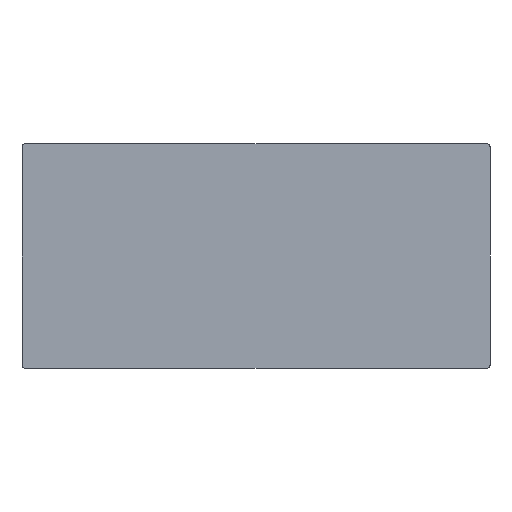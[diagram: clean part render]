
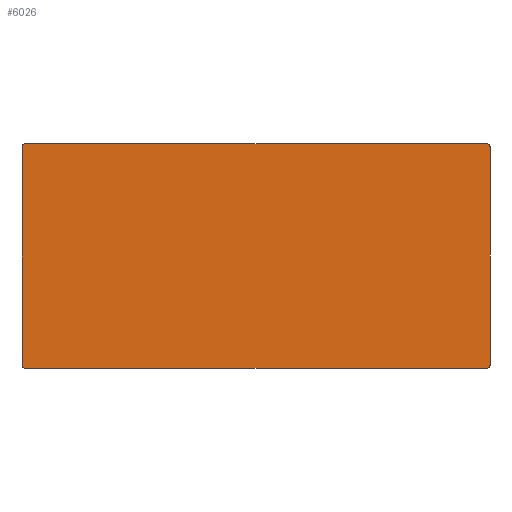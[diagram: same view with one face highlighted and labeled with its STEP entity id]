
A CAD part, front view. The second image highlights one B-rep face of the part: STEP entity #6026.
In plain terms, the highlighted planar face has unit normal (0, -1, 0).
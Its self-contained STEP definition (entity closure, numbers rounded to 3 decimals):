
#251=PLANE('',#6502);
#508=FACE_OUTER_BOUND('',#880,.T.);
#880=EDGE_LOOP('',(#4378,#4379,#4380,#4381,#4382,#4383,#4384,#4385));
#1365=LINE('',#9029,#1922);
#1371=LINE('',#9049,#1928);
#1374=LINE('',#9057,#1931);
#1376=LINE('',#9063,#1933);
#1922=VECTOR('',#7379,10.);
#1928=VECTOR('',#7399,10.);
#1931=VECTOR('',#7408,10.);
#1933=VECTOR('',#7416,10.);
#2375=CIRCLE('',#6487,2.);
#2379=CIRCLE('',#6494,2.);
#2380=CIRCLE('',#6497,2.);
#2381=CIRCLE('',#6500,2.);
#2674=VERTEX_POINT('',#9019);
#2675=VERTEX_POINT('',#9021);
#2677=VERTEX_POINT('',#9027);
#2683=VERTEX_POINT('',#9043);
#2684=VERTEX_POINT('',#9047);
#2685=VERTEX_POINT('',#9051);
#2686=VERTEX_POINT('',#9055);
#2687=VERTEX_POINT('',#9059);
#3284=EDGE_CURVE('',#2674,#2675,#2375,.T.);
#3288=EDGE_CURVE('',#2674,#2677,#1365,.T.);
#3296=EDGE_CURVE('',#2683,#2677,#2379,.T.);
#3298=EDGE_CURVE('',#2683,#2684,#1371,.T.);
#3300=EDGE_CURVE('',#2685,#2684,#2380,.T.);
#3302=EDGE_CURVE('',#2685,#2686,#1374,.T.);
#3304=EDGE_CURVE('',#2687,#2686,#2381,.T.);
#3305=EDGE_CURVE('',#2687,#2675,#1376,.T.);
#4378=ORIENTED_EDGE('',*,*,#3284,.F.);
#4379=ORIENTED_EDGE('',*,*,#3288,.T.);
#4380=ORIENTED_EDGE('',*,*,#3296,.F.);
#4381=ORIENTED_EDGE('',*,*,#3298,.T.);
#4382=ORIENTED_EDGE('',*,*,#3300,.F.);
#4383=ORIENTED_EDGE('',*,*,#3302,.T.);
#4384=ORIENTED_EDGE('',*,*,#3304,.F.);
#4385=ORIENTED_EDGE('',*,*,#3305,.T.);
#6026=ADVANCED_FACE('',(#508),#251,.F.);
#6487=AXIS2_PLACEMENT_3D('',#9022,#7372,#7373);
#6494=AXIS2_PLACEMENT_3D('',#9045,#7394,#7395);
#6497=AXIS2_PLACEMENT_3D('',#9053,#7403,#7404);
#6500=AXIS2_PLACEMENT_3D('',#9061,#7412,#7413);
#6502=AXIS2_PLACEMENT_3D('',#9064,#7417,#7418);
#7372=DIRECTION('center_axis',(0.,1.,0.));
#7373=DIRECTION('ref_axis',(0.707,0.,0.707));
#7379=DIRECTION('',(-1.,0.,0.));
#7394=DIRECTION('center_axis',(0.,1.,0.));
#7395=DIRECTION('ref_axis',(-0.707,0.,0.707));
#7399=DIRECTION('',(0.,0.,-1.));
#7403=DIRECTION('center_axis',(0.,1.,0.));
#7404=DIRECTION('ref_axis',(-0.707,0.,-0.707));
#7408=DIRECTION('',(1.,0.,0.));
#7412=DIRECTION('center_axis',(0.,1.,0.));
#7413=DIRECTION('ref_axis',(0.707,0.,-0.707));
#7416=DIRECTION('',(0.,0.,1.));
#7417=DIRECTION('center_axis',(0.,1.,0.));
#7418=DIRECTION('ref_axis',(1.,0.,0.));
#9019=CARTESIAN_POINT('',(175.5,-57.,85.));
#9021=CARTESIAN_POINT('',(177.5,-57.,83.));
#9022=CARTESIAN_POINT('Origin',(175.5,-57.,83.));
#9027=CARTESIAN_POINT('',(-175.5,-57.,85.));
#9029=CARTESIAN_POINT('',(177.5,-57.,85.));
#9043=CARTESIAN_POINT('',(-177.5,-57.,83.));
#9045=CARTESIAN_POINT('Origin',(-175.5,-57.,83.));
#9047=CARTESIAN_POINT('',(-177.5,-57.,-83.));
#9049=CARTESIAN_POINT('',(-177.5,-57.,85.));
#9051=CARTESIAN_POINT('',(-175.5,-57.,-85.));
#9053=CARTESIAN_POINT('Origin',(-175.5,-57.,-83.));
#9055=CARTESIAN_POINT('',(175.5,-57.,-85.));
#9057=CARTESIAN_POINT('',(-177.5,-57.,-85.));
#9059=CARTESIAN_POINT('',(177.5,-57.,-83.));
#9061=CARTESIAN_POINT('Origin',(175.5,-57.,-83.));
#9063=CARTESIAN_POINT('',(177.5,-57.,-85.));
#9064=CARTESIAN_POINT('Origin',(0.,-57.,
0.));
